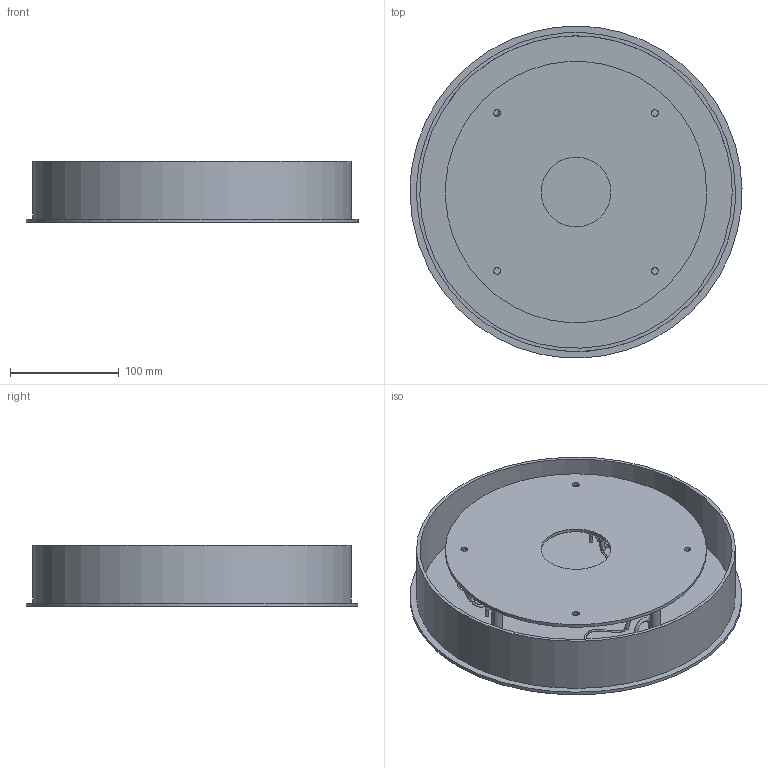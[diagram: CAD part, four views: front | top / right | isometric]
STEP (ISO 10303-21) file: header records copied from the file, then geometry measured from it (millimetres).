
FILE_DESCRIPTION(/* description */ (''),/* implementation_level */ '2;1');
FILE_NAME(/* name */ 'SkLO_Round_Canopy_12_MCR12_3D',/* time_stamp */ '2024-10-18T23:24:41+02:00',/* author */ (''),/* organization */ (''),/* preprocessor_version */ 'ST-DEVELOPER v16.5',/* originating_system */ 'Rhino 7.34',/* authorisation */ '');
FILE_SCHEMA (('CONFIG_CONTROL_DESIGN'));
Length unit declared in the file: millimetre
Products named in the file (1): Document
Bounding box: 304.96 x 304.82 x 56.3 mm (x, y, z)
Volume: 508034.5 mm3; surface area: 354557.2 mm2
Topology: 18 solids, 18 shells, 179 faces, 399 edges, 266 vertices
Faces by surface type: plane 80, cylinder 64, bspline 35
Full cylindrical faces by diameter (mm): 2.4 x9, 3 x12, 3.5 x6, 5.249 x4, 6 x8, 6.2 x8, 10 x4, 64 x1, 240 x1, 287 x1, 293 x1, 305 x1
Entity records: 12216 total; most frequent: CARTESIAN_POINT 9478, ORIENTED_EDGE 772, EDGE_CURVE 386, VERTEX_POINT 253, EDGE_LOOP 225, ADVANCED_FACE 179, FACE_OUTER_BOUND 179, DIRECTION 150
